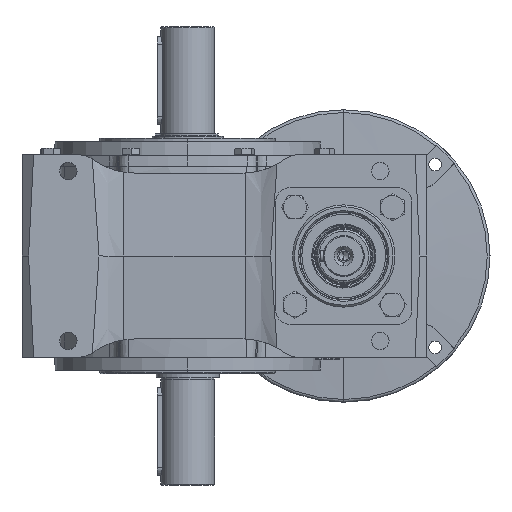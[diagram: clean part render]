
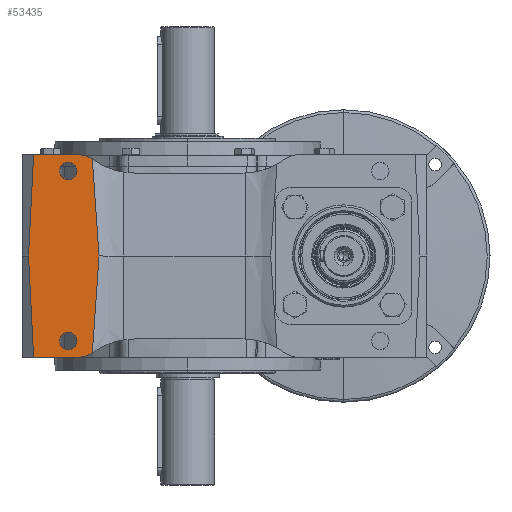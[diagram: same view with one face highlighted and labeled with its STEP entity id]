
A CAD part, left-side view. The second image highlights one B-rep face of the part: STEP entity #53435.
In plain terms, the highlighted planar face has unit normal (-1, 0, 0).
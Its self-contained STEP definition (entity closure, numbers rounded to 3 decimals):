
#357 = VERTEX_POINT ( 'NONE', #11646 ) ;
#640 = B_SPLINE_CURVE_WITH_KNOTS ( 'NONE', 3,
 ( #73952, #32024, #65863, #15376, #74336, #23872 ),
 .UNSPECIFIED., .F., .F.,
 ( 4, 2, 4 ),
 ( 0.135, 0.184, 0.234 ),
 .UNSPECIFIED. ) ;
#904 = ORIENTED_EDGE ( 'NONE', *, *, #85172, .F. ) ;
#1215 = VECTOR ( 'NONE', #63734, 1000. ) ;
#1551 = CARTESIAN_POINT ( 'NONE',  ( -170., 170., 149. ) ) ;
#4444 = ORIENTED_EDGE ( 'NONE', *, *, #50854, .F. ) ;
#5090 = CARTESIAN_POINT ( 'NONE',  ( -170., 158.098, 104. ) ) ;
#8085 = CIRCLE ( 'NONE', #65667, 9. ) ;
#9462 = CARTESIAN_POINT ( 'NONE',  ( -170., 95.711, 66.242 ) ) ;
#10037 = DIRECTION ( 'NONE',  ( 1., 0., 0. ) ) ;
#10523 = DIRECTION ( 'NONE',  ( -1., 0., 0. ) ) ;
#11028 = DIRECTION ( 'NONE',  ( 0., 1., 0. ) ) ;
#11475 = VECTOR ( 'NONE', #16262, 1000. ) ;
#11646 = CARTESIAN_POINT ( 'NONE',  ( -170., 122.5, -78. ) ) ;
#12155 = VERTEX_POINT ( 'NONE', #84757 ) ;
#12220 = AXIS2_PLACEMENT_3D ( 'NONE', #64268, #13824, #72754 ) ;
#12435 = CARTESIAN_POINT ( 'NONE',  ( -170., 122.5, -87. ) ) ;
#12662 = VERTEX_POINT ( 'NONE', #57829 ) ;
#13824 = DIRECTION ( 'NONE',  ( -1., 0., 0. ) ) ;
#15376 = CARTESIAN_POINT ( 'NONE',  ( -170., 95.711, -66.242 ) ) ;
#15497 = EDGE_CURVE ( 'NONE', #50483, #105264, #86293, .T. ) ;
#16262 = DIRECTION ( 'NONE',  ( 0., -0.049, -0.999 ) ) ;
#16788 = EDGE_CURVE ( 'NONE', #33084, #101626, #41250, .T. ) ;
#17587 = CARTESIAN_POINT ( 'NONE',  ( -170., 91.006, 0. ) ) ;
#17930 = CARTESIAN_POINT ( 'NONE',  ( -170., 97.852, 99.377 ) ) ;
#18818 = VECTOR ( 'NONE', #35103, 1000. ) ;
#20399 = CARTESIAN_POINT ( 'NONE',  ( -170., 122.5, 87. ) ) ;
#20873 = DIRECTION ( 'NONE',  ( 0., 0., 1. ) ) ;
#23389 = FACE_BOUND ( 'NONE', #47562, .T. ) ;
#23872 = CARTESIAN_POINT ( 'NONE',  ( -170., 97.852, -99.377 ) ) ;
#26600 = CARTESIAN_POINT ( 'NONE',  ( -170., 64.974, 104. ) ) ;
#27753 = ORIENTED_EDGE ( 'NONE', *, *, #95446, .T. ) ;
#28765 = ORIENTED_EDGE ( 'NONE', *, *, #49061, .F. ) ;
#28898 = DIRECTION ( 'NONE',  ( 0., 0., 1. ) ) ;
#29033 = VERTEX_POINT ( 'NONE', #66461 ) ;
#32024 = CARTESIAN_POINT ( 'NONE',  ( -170., 92.258, -16.555 ) ) ;
#32115 = CARTESIAN_POINT ( 'NONE',  ( -170., 122.5, -96. ) ) ;
#33084 = VERTEX_POINT ( 'NONE', #5090 ) ;
#34890 = VERTEX_POINT ( 'NONE', #32115 ) ;
#35103 = DIRECTION ( 'NONE',  ( 0., -1., 0. ) ) ;
#35318 = ORIENTED_EDGE ( 'NONE', *, *, #88944, .T. ) ;
#35660 = DIRECTION ( 'NONE',  ( -1., 0., 0. ) ) ;
#36126 = CARTESIAN_POINT ( 'NONE',  ( -170., 64.974, -104. ) ) ;
#38016 = ORIENTED_EDGE ( 'NONE', *, *, #16788, .F. ) ;
#39878 = CIRCLE ( 'NONE', #55462, 9. ) ;
#41250 = LINE ( 'NONE', #26600, #18818 ) ;
#41360 = VERTEX_POINT ( 'NONE', #106448 ) ;
#43389 = EDGE_CURVE ( 'NONE', #29033, #33084, #88222, .T. ) ;
#44830 = CARTESIAN_POINT ( 'NONE',  ( -170., 122.5, -87. ) ) ;
#47096 = ORIENTED_EDGE ( 'NONE', *, *, #49869, .T. ) ;
#47562 = EDGE_LOOP ( 'NONE', ( #73675, #60009 ) ) ;
#49061 = EDGE_CURVE ( 'NONE', #12155, #41360, #39878, .T. ) ;
#49869 = EDGE_CURVE ( 'NONE', #101099, #101626, #79338, .T. ) ;
#50483 = VERTEX_POINT ( 'NONE', #82606 ) ;
#50854 = EDGE_CURVE ( 'NONE', #12662, #105264, #640, .T. ) ;
#51078 = FACE_BOUND ( 'NONE', #60930, .T. ) ;
#52019 = PLANE ( 'NONE',  #108251 ) ;
#52645 = ORIENTED_EDGE ( 'NONE', *, *, #15497, .T. ) ;
#53278 = DIRECTION ( 'NONE',  ( 0., 0., 1. ) ) ;
#53435 = ADVANCED_FACE ( 'NONE', ( #23389, #51078, #68246 ), #52019, .F. ) ;
#54483 = EDGE_LOOP ( 'NONE', ( #27753, #47096, #38016, #86080, #35318, #93572, #52645, #4444 ) ) ;
#55155 = CARTESIAN_POINT ( 'NONE',  ( -170., 97.852, -99.377 ) ) ;
#55207 = CARTESIAN_POINT ( 'NONE',  ( -170., 158.159, 102.763 ) ) ;
#55462 = AXIS2_PLACEMENT_3D ( 'NONE', #86109, #35660, #94554 ) ;
#57829 = CARTESIAN_POINT ( 'NONE',  ( -170., 91.006, 0. ) ) ;
#59902 = CARTESIAN_POINT ( 'NONE',  ( -170., 93.44, 33.115 ) ) ;
#60009 = ORIENTED_EDGE ( 'NONE', *, *, #90862, .F. ) ;
#60477 = AXIS2_PLACEMENT_3D ( 'NONE', #60960, #10523, #69467 ) ;
#60930 = EDGE_LOOP ( 'NONE', ( #28765, #904 ) ) ;
#60960 = CARTESIAN_POINT ( 'NONE',  ( -170., 113.851, 74. ) ) ;
#63734 = DIRECTION ( 'NONE',  ( 0., -0.049, 0.999 ) ) ;
#64268 = CARTESIAN_POINT ( 'NONE',  ( -170., 113.851, -74. ) ) ;
#65667 = AXIS2_PLACEMENT_3D ( 'NONE', #20399, #79402, #28898 ) ;
#65863 = CARTESIAN_POINT ( 'NONE',  ( -170., 93.44, -33.115 ) ) ;
#66461 = CARTESIAN_POINT ( 'NONE',  ( -170., 163.234, 0. ) ) ;
#67838 = VECTOR ( 'NONE', #11028, 1000. ) ;
#68246 = FACE_OUTER_BOUND ( 'NONE', #54483, .T. ) ;
#68404 = CARTESIAN_POINT ( 'NONE',  ( -170., 96.799, 82.809 ) ) ;
#68998 = DIRECTION ( 'NONE',  ( 0., 1., 0. ) ) ;
#69467 = DIRECTION ( 'NONE',  ( 0., 1., 0. ) ) ;
#70465 = LINE ( 'NONE', #36126, #67838 ) ;
#71378 = DIRECTION ( 'NONE',  ( -1., 0., 0. ) ) ;
#72754 = DIRECTION ( 'NONE',  ( 0., 1., 0. ) ) ;
#73675 = ORIENTED_EDGE ( 'NONE', *, *, #91806, .F. ) ;
#73913 = EDGE_CURVE ( 'NONE', #50483, #76769, #70465, .T. ) ;
#73952 = CARTESIAN_POINT ( 'NONE',  ( -170., 91.006, 0. ) ) ;
#74336 = CARTESIAN_POINT ( 'NONE',  ( -170., 96.799, -82.808 ) ) ;
#75216 = CARTESIAN_POINT ( 'NONE',  ( -170., 158.159, -102.763 ) ) ;
#76769 = VERTEX_POINT ( 'NONE', #99282 ) ;
#78333 = CIRCLE ( 'NONE', #107847, 9. ) ;
#79338 = CIRCLE ( 'NONE', #60477, 30. ) ;
#79402 = DIRECTION ( 'NONE',  ( -1., 0., 0. ) ) ;
#82606 = CARTESIAN_POINT ( 'NONE',  ( -170., 113.851, -104. ) ) ;
#84757 = CARTESIAN_POINT ( 'NONE',  ( -170., 122.5, 96. ) ) ;
#85172 = EDGE_CURVE ( 'NONE', #41360, #12155, #8085, .T. ) ;
#85998 = CARTESIAN_POINT ( 'NONE',  ( -170., 97.852, 99.377 ) ) ;
#86080 = ORIENTED_EDGE ( 'NONE', *, *, #43389, .F. ) ;
#86109 = CARTESIAN_POINT ( 'NONE',  ( -170., 122.5, 87. ) ) ;
#86293 = CIRCLE ( 'NONE', #12220, 30. ) ;
#88222 = LINE ( 'NONE', #55207, #1215 ) ;
#88944 = EDGE_CURVE ( 'NONE', #29033, #76769, #103780, .T. ) ;
#88988 = B_SPLINE_CURVE_WITH_KNOTS ( 'NONE', 3,
 ( #17587, #101985, #59902, #9462, #68404, #17930 ),
 .UNSPECIFIED., .F., .F.,
 ( 4, 2, 4 ),
 ( 0.098, 0.147, 0.197 ),
 .UNSPECIFIED. ) ;
#90862 = EDGE_CURVE ( 'NONE', #34890, #357, #94285, .T. ) ;
#91806 = EDGE_CURVE ( 'NONE', #357, #34890, #78333, .T. ) ;
#93572 = ORIENTED_EDGE ( 'NONE', *, *, #73913, .F. ) ;
#94285 = CIRCLE ( 'NONE', #108529, 9. ) ;
#94330 = CARTESIAN_POINT ( 'NONE',  ( -170., 113.851, 104. ) ) ;
#94554 = DIRECTION ( 'NONE',  ( 0., 0., 1. ) ) ;
#95446 = EDGE_CURVE ( 'NONE', #12662, #101099, #88988, .T. ) ;
#99282 = CARTESIAN_POINT ( 'NONE',  ( -170., 158.098, -104. ) ) ;
#101099 = VERTEX_POINT ( 'NONE', #85998 ) ;
#101626 = VERTEX_POINT ( 'NONE', #94330 ) ;
#101985 = CARTESIAN_POINT ( 'NONE',  ( -170., 92.258, 16.555 ) ) ;
#103780 = LINE ( 'NONE', #75216, #11475 ) ;
#103806 = DIRECTION ( 'NONE',  ( -1., 0., 0. ) ) ;
#105264 = VERTEX_POINT ( 'NONE', #55155 ) ;
#106448 = CARTESIAN_POINT ( 'NONE',  ( -170., 122.5, 78. ) ) ;
#107847 = AXIS2_PLACEMENT_3D ( 'NONE', #44830, #103806, #53278 ) ;
#108251 = AXIS2_PLACEMENT_3D ( 'NONE', #1551, #10037, #68998 ) ;
#108529 = AXIS2_PLACEMENT_3D ( 'NONE', #12435, #71378, #20873 ) ;
